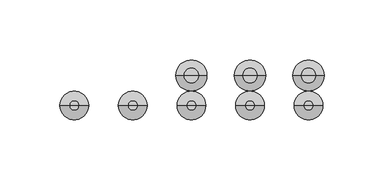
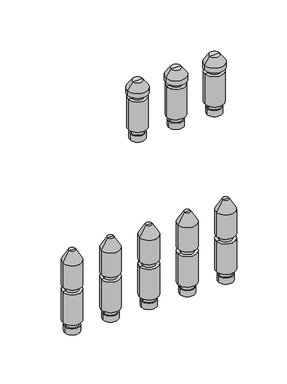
"""IFC4 building model written with IfcOpenShell, lengths in millimetres: valve geometry, PL AT_Manifold_FT-EV : 08 circuits."""

from ifc_helpers import new_model, si_unit, frame, origin, place, context, project, spatial, polyline, circle_curve, source, transform, mapped, element, save
from ifc_brep_helpers import plane_surface, cylinder_surface, revolved_surface, advanced_brep


def valve_fde5d0af(model_context):
    return source(origin(), model_context, "Body", "AdvancedBrep", [
        advanced_brep(
        [(325.6428571, 0.0, -35.11267), (344.6428571, 0.0, -35.11267), (335.1428571, 0.0, -35.11267), (325.6428571, 0.0, -27.0369646), (344.6428571, 0.0, -27.0369646), (327.1428571, 0.0, -27.0369646), (343.1428571, 0.0, -27.0369646), (327.1428571, 0.0, -20.330253), (343.1428571, 0.0, -20.330253), (323.1428571, 0.0, -20.330253), (347.1428571, 0.0, -20.330253), (323.1428571, 0.0, 20.330253), (347.1428571, 0.0, 20.330253), (327.1428571, 0.0, 20.330253), (343.1428571, 0.0, 20.330253), (327.1428571, 0.0, 27.0474786), (343.1428571, 0.0, 27.0474786), (323.1428571, 0.0, 27.0474786), (347.1428571, 0.0, 27.0474786), (323.1428571, 0.0, 59.4084325), (347.1428571, 0.0, 59.4084325), (331.1428571, 0.0, 73.264839), (339.1428571, 0.0, 73.264839), (335.1428571, 0.0, 73.264839)],
        [
            (0, 1, circle_curve(frame((335.1428571, 0.0, -35.11267), z_axis=(0.0, 0.0, -1.0), x_axis=(1.0, 0.0, 0.0)), 9.5)),
            (1, 2),
            (2, 0),
            (1, 0, circle_curve(frame((335.1428571, 0.0, -35.11267), z_axis=(0.0, 0.0, -1.0), x_axis=(1.0, 0.0, 0.0)), 9.5)),
            (3, 4, circle_curve(frame((335.1428571, 0.0, -27.0369646), z_axis=(0.0, 0.0, -1.0), x_axis=(1.0, 0.0, 0.0)), 9.5)),
            (4, 1),
            (0, 3),
            (4, 3, circle_curve(frame((335.1428571, 0.0, -27.0369646), z_axis=(0.0, 0.0, -1.0), x_axis=(1.0, 0.0, 0.0)), 9.5)),
            (5, 6, circle_curve(frame((335.1428571, 0.0, -27.0369646), z_axis=(0.0, 0.0, -1.0), x_axis=(1.0, 0.0, 0.0)), 8.0)),
            (6, 4),
            (3, 5),
            (6, 5, circle_curve(frame((335.1428571, 0.0, -27.0369646), z_axis=(0.0, 0.0, -1.0), x_axis=(1.0, 0.0, 0.0)), 8.0)),
            (7, 8, circle_curve(frame((335.1428571, 0.0, -20.330253), z_axis=(0.0, 0.0, -1.0), x_axis=(1.0, 0.0, 0.0)), 8.0)),
            (8, 6),
            (5, 7),
            (8, 7, circle_curve(frame((335.1428571, 0.0, -20.330253), z_axis=(0.0, 0.0, -1.0), x_axis=(1.0, 0.0, 0.0)), 8.0)),
            (9, 10, circle_curve(frame((335.1428571, 0.0, -20.330253), z_axis=(0.0, 0.0, -1.0), x_axis=(1.0, 0.0, 0.0)), 12.0)),
            (10, 8),
            (7, 9),
            (10, 9, circle_curve(frame((335.1428571, 0.0, -20.330253), z_axis=(0.0, 0.0, -1.0), x_axis=(1.0, 0.0, 0.0)), 12.0)),
            (11, 12, circle_curve(frame((335.1428571, 0.0, 20.330253), z_axis=(0.0, 0.0, -1.0), x_axis=(1.0, 0.0, 0.0)), 12.0)),
            (12, 10),
            (9, 11),
            (12, 11, circle_curve(frame((335.1428571, 0.0, 20.330253), z_axis=(0.0, 0.0, -1.0), x_axis=(1.0, 0.0, 0.0)), 12.0)),
            (13, 14, circle_curve(frame((335.1428571, 0.0, 20.330253), z_axis=(0.0, 0.0, -1.0), x_axis=(1.0, 0.0, 0.0)), 8.0)),
            (14, 12),
            (11, 13),
            (14, 13, circle_curve(frame((335.1428571, 0.0, 20.330253), z_axis=(0.0, 0.0, -1.0), x_axis=(1.0, 0.0, 0.0)), 8.0)),
            (15, 16, circle_curve(frame((335.1428571, 0.0, 27.0474786), z_axis=(0.0, 0.0, -1.0), x_axis=(1.0, 0.0, 0.0)), 8.0)),
            (16, 14),
            (13, 15),
            (16, 15, circle_curve(frame((335.1428571, 0.0, 27.0474786), z_axis=(0.0, 0.0, -1.0), x_axis=(1.0, 0.0, 0.0)), 8.0)),
            (17, 18, circle_curve(frame((335.1428571, 0.0, 27.0474786), z_axis=(0.0, 0.0, -1.0), x_axis=(1.0, 0.0, 0.0)), 12.0)),
            (18, 16),
            (15, 17),
            (18, 17, circle_curve(frame((335.1428571, 0.0, 27.0474786), z_axis=(0.0, 0.0, -1.0), x_axis=(1.0, 0.0, 0.0)), 12.0)),
            (19, 20, circle_curve(frame((335.1428571, 0.0, 59.4084325), z_axis=(0.0, 0.0, -1.0), x_axis=(1.0, 0.0, 0.0)), 12.0)),
            (20, 18),
            (17, 19),
            (20, 19, circle_curve(frame((335.1428571, 0.0, 59.4084325), z_axis=(0.0, 0.0, -1.0), x_axis=(1.0, 0.0, 0.0)), 12.0)),
            (21, 22, circle_curve(frame((335.1428571, 0.0, 73.264839), z_axis=(0.0, 0.0, -1.0), x_axis=(1.0, 0.0, 0.0)), 4.0)),
            (22, 20),
            (19, 21),
            (22, 21, circle_curve(frame((335.1428571, 0.0, 73.264839), z_axis=(0.0, 0.0, -1.0), x_axis=(1.0, 0.0, 0.0)), 4.0)),
            (23, 22),
            (21, 23),
        ],
        [
            plane_surface(frame((335.1428571, 0.0, -35.11267), z_axis=(0.0, 0.0, -1.0), x_axis=(1.0, 0.0, 0.0))),
            cylinder_surface(frame((335.1428571, 0.0, 58.264839), z_axis=(0.0, 0.0, 1.0), x_axis=(1.0, 0.0, 0.0)), 9.5),
            plane_surface(frame((335.1428571, 0.0, -27.0369646), z_axis=(0.0, 0.0, 1.0), x_axis=(1.0, 0.0, 0.0))),
            cylinder_surface(frame((335.1428571, 0.0, 58.264839), z_axis=(0.0, 0.0, 1.0), x_axis=(1.0, 0.0, 0.0)), 8.0),
            plane_surface(frame((335.1428571, 0.0, -20.330253), z_axis=(0.0, 0.0, -1.0), x_axis=(1.0, 0.0, 0.0))),
            cylinder_surface(frame((335.1428571, 0.0, 58.264839), z_axis=(0.0, 0.0, 1.0), x_axis=(1.0, 0.0, 0.0)), 12.0),
            plane_surface(frame((335.1428571, 0.0, 20.330253), z_axis=(0.0, 0.0, 1.0), x_axis=(1.0, 0.0, 0.0))),
            plane_surface(frame((335.1428571, 0.0, 27.0474786), z_axis=(0.0, 0.0, -1.0), x_axis=(1.0, 0.0, 0.0))),
            revolved_surface(polyline([(347.1428571, 0.0, 59.4084325), (339.1428571, 0.0, 73.264839)]), (335.1428571, 0.0, 58.264839), (0.0, 0.0, 1.0)),
            plane_surface(frame((335.1428571, 0.0, 73.264839), z_axis=(0.0, 0.0, 1.0), x_axis=(1.0, 0.0, 0.0))),
        ],
        [
            (0, [[1, 2, 3]]),
            (0, [[4, -3, -2]]),
            (1, [[5, 6, -1, 7]]),
            (1, [[8, -7, -4, -6]]),
            (2, [[9, 10, -5, 11]]),
            (2, [[12, -11, -8, -10]]),
            (3, [[13, 14, -9, 15]]),
            (3, [[16, -15, -12, -14]]),
            (4, [[17, 18, -13, 19]]),
            (4, [[20, -19, -16, -18]]),
            (5, [[21, 22, -17, 23]]),
            (5, [[24, -23, -20, -22]]),
            (6, [[25, 26, -21, 27]]),
            (6, [[28, -27, -24, -26]]),
            (3, [[29, 30, -25, 31]]),
            (3, [[32, -31, -28, -30]]),
            (7, [[33, 34, -29, 35]]),
            (7, [[36, -35, -32, -34]]),
            (5, [[37, 38, -33, 39]]),
            (5, [[40, -39, -36, -38]]),
            (8, [[41, 42, -37, 43]]),
            (8, [[44, -43, -40, -42]]),
            (9, [[45, -41, 46]]),
            (9, [[-46, -44, -45]]),
        ],
    ),
        advanced_brep(
        [(325.6428571, 25.0, 174.88733), (344.6428571, 25.0, 174.88733), (335.1428571, 25.0, 174.88733), (325.6428571, 25.0, 182.9630354), (344.6428571, 25.0, 182.9630354), (327.1428571, 25.0, 182.9630354), (343.1428571, 25.0, 182.9630354), (327.1428571, 25.0, 189.669747), (343.1428571, 25.0, 189.669747), (323.1428571, 25.0, 189.669747), (347.1428571, 25.0, 189.669747), (323.1428571, 25.0, 230.330253), (347.1428571, 25.0, 230.330253), (327.1428571, 25.0, 230.330253), (343.1428571, 25.0, 230.330253), (327.1428571, 25.0, 236.0474786), (343.1428571, 25.0, 236.0474786), (322.1428571, 25.0, 236.0474786), (348.1428571, 25.0, 236.0474786), (322.1428571, 25.0, 242.337955), (348.1428571, 25.0, 242.337955), (328.798035, 25.0, 251.842534), (341.4876793, 25.0, 251.842534), (335.1428571, 25.0, 251.842534)],
        [
            (0, 1, circle_curve(frame((335.1428571, 25.0, 174.88733), z_axis=(0.0, 0.0, -1.0), x_axis=(1.0, 0.0, 0.0)), 9.5)),
            (1, 2),
            (2, 0),
            (1, 0, circle_curve(frame((335.1428571, 25.0, 174.88733), z_axis=(0.0, 0.0, -1.0), x_axis=(1.0, 0.0, 0.0)), 9.5)),
            (3, 4, circle_curve(frame((335.1428571, 25.0, 182.9630354), z_axis=(0.0, 0.0, -1.0), x_axis=(1.0, 0.0, 0.0)), 9.5)),
            (4, 1),
            (0, 3),
            (4, 3, circle_curve(frame((335.1428571, 25.0, 182.9630354), z_axis=(0.0, 0.0, -1.0), x_axis=(1.0, 0.0, 0.0)), 9.5)),
            (5, 6, circle_curve(frame((335.1428571, 25.0, 182.9630354), z_axis=(0.0, 0.0, -1.0), x_axis=(1.0, 0.0, 0.0)), 8.0)),
            (6, 4),
            (3, 5),
            (6, 5, circle_curve(frame((335.1428571, 25.0, 182.9630354), z_axis=(0.0, 0.0, -1.0), x_axis=(1.0, 0.0, 0.0)), 8.0)),
            (7, 8, circle_curve(frame((335.1428571, 25.0, 189.669747), z_axis=(0.0, 0.0, -1.0), x_axis=(1.0, 0.0, 0.0)), 8.0)),
            (8, 6),
            (5, 7),
            (8, 7, circle_curve(frame((335.1428571, 25.0, 189.669747), z_axis=(0.0, 0.0, -1.0), x_axis=(1.0, 0.0, 0.0)), 8.0)),
            (9, 10, circle_curve(frame((335.1428571, 25.0, 189.669747), z_axis=(0.0, 0.0, -1.0), x_axis=(1.0, 0.0, 0.0)), 12.0)),
            (10, 8),
            (7, 9),
            (10, 9, circle_curve(frame((335.1428571, 25.0, 189.669747), z_axis=(0.0, 0.0, -1.0), x_axis=(1.0, 0.0, 0.0)), 12.0)),
            (11, 12, circle_curve(frame((335.1428571, 25.0, 230.330253), z_axis=(0.0, 0.0, -1.0), x_axis=(1.0, 0.0, 0.0)), 12.0)),
            (12, 10),
            (9, 11),
            (12, 11, circle_curve(frame((335.1428571, 25.0, 230.330253), z_axis=(0.0, 0.0, -1.0), x_axis=(1.0, 0.0, 0.0)), 12.0)),
            (13, 14, circle_curve(frame((335.1428571, 25.0, 230.330253), z_axis=(0.0, 0.0, -1.0), x_axis=(1.0, 0.0, 0.0)), 8.0)),
            (14, 12),
            (11, 13),
            (14, 13, circle_curve(frame((335.1428571, 25.0, 230.330253), z_axis=(0.0, 0.0, -1.0), x_axis=(1.0, 0.0, 0.0)), 8.0)),
            (15, 16, circle_curve(frame((335.1428571, 25.0, 236.0474786), z_axis=(0.0, 0.0, -1.0), x_axis=(1.0, 0.0, 0.0)), 8.0)),
            (16, 14),
            (13, 15),
            (16, 15, circle_curve(frame((335.1428571, 25.0, 236.0474786), z_axis=(0.0, 0.0, -1.0), x_axis=(1.0, 0.0, 0.0)), 8.0)),
            (17, 18, circle_curve(frame((335.1428571, 25.0, 236.0474786), z_axis=(0.0, 0.0, -1.0), x_axis=(1.0, 0.0, 0.0)), 13.0)),
            (18, 16),
            (15, 17),
            (18, 17, circle_curve(frame((335.1428571, 25.0, 236.0474786), z_axis=(0.0, 0.0, -1.0), x_axis=(1.0, 0.0, 0.0)), 13.0)),
            (19, 20, circle_curve(frame((335.1428571, 25.0, 242.337955), z_axis=(0.0, 0.0, -1.0), x_axis=(1.0, 0.0, 0.0)), 13.0)),
            (20, 18),
            (17, 19),
            (20, 19, circle_curve(frame((335.1428571, 25.0, 242.337955), z_axis=(0.0, 0.0, -1.0), x_axis=(1.0, 0.0, 0.0)), 13.0)),
            (21, 22, circle_curve(frame((335.1428571, 25.0, 251.842534), z_axis=(0.0, 0.0, -1.0), x_axis=(1.0, 0.0, 0.0)), 6.3448221)),
            (22, 20),
            (19, 21),
            (22, 21, circle_curve(frame((335.1428571, 25.0, 251.842534), z_axis=(0.0, 0.0, -1.0), x_axis=(1.0, 0.0, 0.0)), 6.3448221)),
            (23, 22),
            (21, 23),
        ],
        [
            plane_surface(frame((335.1428571, 25.0, 174.88733), z_axis=(0.0, 0.0, -1.0), x_axis=(1.0, 0.0, 0.0))),
            cylinder_surface(frame((335.1428571, 25.0, 247.7026565), z_axis=(0.0, 0.0, 1.0), x_axis=(1.0, 0.0, 0.0)), 9.5),
            plane_surface(frame((335.1428571, 25.0, 182.9630354), z_axis=(0.0, 0.0, 1.0), x_axis=(1.0, 0.0, 0.0))),
            cylinder_surface(frame((335.1428571, 25.0, 247.7026565), z_axis=(0.0, 0.0, 1.0), x_axis=(1.0, 0.0, 0.0)), 8.0),
            plane_surface(frame((335.1428571, 25.0, 189.669747), z_axis=(0.0, 0.0, -1.0), x_axis=(1.0, 0.0, 0.0))),
            cylinder_surface(frame((335.1428571, 25.0, 247.7026565), z_axis=(0.0, 0.0, 1.0), x_axis=(1.0, 0.0, 0.0)), 12.0),
            plane_surface(frame((335.1428571, 25.0, 230.330253), z_axis=(0.0, 0.0, 1.0), x_axis=(1.0, 0.0, 0.0))),
            plane_surface(frame((335.1428571, 25.0, 236.0474786), z_axis=(0.0, 0.0, -1.0), x_axis=(1.0, 0.0, 0.0))),
            cylinder_surface(frame((335.1428571, 25.0, 247.7026565), z_axis=(0.0, 0.0, 1.0), x_axis=(1.0, 0.0, 0.0)), 13.0),
            revolved_surface(polyline([(348.1428571, 25.0, 242.337955), (341.4876793, 25.0, 251.842534)]), (335.1428571, 25.0, 247.7026565), (0.0, 0.0, 1.0)),
            plane_surface(frame((335.1428571, 25.0, 251.842534), z_axis=(0.0, 0.0, 1.0), x_axis=(1.0, 0.0, 0.0))),
        ],
        [
            (0, [[1, 2, 3]]),
            (0, [[4, -3, -2]]),
            (1, [[5, 6, -1, 7]]),
            (1, [[8, -7, -4, -6]]),
            (2, [[9, 10, -5, 11]]),
            (2, [[12, -11, -8, -10]]),
            (3, [[13, 14, -9, 15]]),
            (3, [[16, -15, -12, -14]]),
            (4, [[17, 18, -13, 19]]),
            (4, [[20, -19, -16, -18]]),
            (5, [[21, 22, -17, 23]]),
            (5, [[24, -23, -20, -22]]),
            (6, [[25, 26, -21, 27]]),
            (6, [[28, -27, -24, -26]]),
            (3, [[29, 30, -25, 31]]),
            (3, [[32, -31, -28, -30]]),
            (7, [[33, 34, -29, 35]]),
            (7, [[36, -35, -32, -34]]),
            (8, [[37, 38, -33, 39]]),
            (8, [[40, -39, -36, -38]]),
            (9, [[41, 42, -37, 43]]),
            (9, [[44, -43, -40, -42]]),
            (10, [[45, -41, 46]]),
            (10, [[-46, -44, -45]]),
        ],
    ),
        advanced_brep(
        [(276.7857143, 0.0, -35.11267), (295.7857143, 0.0, -35.11267), (286.2857143, 0.0, -35.11267), (276.7857143, 0.0, -27.0369646), (295.7857143, 0.0, -27.0369646), (278.2857143, 0.0, -27.0369646), (294.2857143, 0.0, -27.0369646), (278.2857143, 0.0, -20.330253), (294.2857143, 0.0, -20.330253), (274.2857143, 0.0, -20.330253), (298.2857143, 0.0, -20.330253), (274.2857143, 0.0, 20.330253), (298.2857143, 0.0, 20.330253), (278.2857143, 0.0, 20.330253), (294.2857143, 0.0, 20.330253), (278.2857143, 0.0, 27.0474786), (294.2857143, 0.0, 27.0474786), (274.2857143, 0.0, 27.0474786), (298.2857143, 0.0, 27.0474786), (274.2857143, 0.0, 59.4084325), (298.2857143, 0.0, 59.4084325), (282.2857143, 0.0, 73.264839), (290.2857143, 0.0, 73.264839), (286.2857143, 0.0, 73.264839)],
        [
            (0, 1, circle_curve(frame((286.2857143, 0.0, -35.11267), z_axis=(0.0, 0.0, -1.0), x_axis=(1.0, 0.0, 0.0)), 9.5)),
            (1, 2),
            (2, 0),
            (1, 0, circle_curve(frame((286.2857143, 0.0, -35.11267), z_axis=(0.0, 0.0, -1.0), x_axis=(1.0, 0.0, 0.0)), 9.5)),
            (3, 4, circle_curve(frame((286.2857143, 0.0, -27.0369646), z_axis=(0.0, 0.0, -1.0), x_axis=(1.0, 0.0, 0.0)), 9.5)),
            (4, 1),
            (0, 3),
            (4, 3, circle_curve(frame((286.2857143, 0.0, -27.0369646), z_axis=(0.0, 0.0, -1.0), x_axis=(1.0, 0.0, 0.0)), 9.5)),
            (5, 6, circle_curve(frame((286.2857143, 0.0, -27.0369646), z_axis=(0.0, 0.0, -1.0), x_axis=(1.0, 0.0, 0.0)), 8.0)),
            (6, 4),
            (3, 5),
            (6, 5, circle_curve(frame((286.2857143, 0.0, -27.0369646), z_axis=(0.0, 0.0, -1.0), x_axis=(1.0, 0.0, 0.0)), 8.0)),
            (7, 8, circle_curve(frame((286.2857143, 0.0, -20.330253), z_axis=(0.0, 0.0, -1.0), x_axis=(1.0, 0.0, 0.0)), 8.0)),
            (8, 6),
            (5, 7),
            (8, 7, circle_curve(frame((286.2857143, 0.0, -20.330253), z_axis=(0.0, 0.0, -1.0), x_axis=(1.0, 0.0, 0.0)), 8.0)),
            (9, 10, circle_curve(frame((286.2857143, 0.0, -20.330253), z_axis=(0.0, 0.0, -1.0), x_axis=(1.0, 0.0, 0.0)), 12.0)),
            (10, 8),
            (7, 9),
            (10, 9, circle_curve(frame((286.2857143, 0.0, -20.330253), z_axis=(0.0, 0.0, -1.0), x_axis=(1.0, 0.0, 0.0)), 12.0)),
            (11, 12, circle_curve(frame((286.2857143, 0.0, 20.330253), z_axis=(0.0, 0.0, -1.0), x_axis=(1.0, 0.0, 0.0)), 12.0)),
            (12, 10),
            (9, 11),
            (12, 11, circle_curve(frame((286.2857143, 0.0, 20.330253), z_axis=(0.0, 0.0, -1.0), x_axis=(1.0, 0.0, 0.0)), 12.0)),
            (13, 14, circle_curve(frame((286.2857143, 0.0, 20.330253), z_axis=(0.0, 0.0, -1.0), x_axis=(1.0, 0.0, 0.0)), 8.0)),
            (14, 12),
            (11, 13),
            (14, 13, circle_curve(frame((286.2857143, 0.0, 20.330253), z_axis=(0.0, 0.0, -1.0), x_axis=(1.0, 0.0, 0.0)), 8.0)),
            (15, 16, circle_curve(frame((286.2857143, 0.0, 27.0474786), z_axis=(0.0, 0.0, -1.0), x_axis=(1.0, 0.0, 0.0)), 8.0)),
            (16, 14),
            (13, 15),
            (16, 15, circle_curve(frame((286.2857143, 0.0, 27.0474786), z_axis=(0.0, 0.0, -1.0), x_axis=(1.0, 0.0, 0.0)), 8.0)),
            (17, 18, circle_curve(frame((286.2857143, 0.0, 27.0474786), z_axis=(0.0, 0.0, -1.0), x_axis=(1.0, 0.0, 0.0)), 12.0)),
            (18, 16),
            (15, 17),
            (18, 17, circle_curve(frame((286.2857143, 0.0, 27.0474786), z_axis=(0.0, 0.0, -1.0), x_axis=(1.0, 0.0, 0.0)), 12.0)),
            (19, 20, circle_curve(frame((286.2857143, 0.0, 59.4084325), z_axis=(0.0, 0.0, -1.0), x_axis=(1.0, 0.0, 0.0)), 12.0)),
            (20, 18),
            (17, 19),
            (20, 19, circle_curve(frame((286.2857143, 0.0, 59.4084325), z_axis=(0.0, 0.0, -1.0), x_axis=(1.0, 0.0, 0.0)), 12.0)),
            (21, 22, circle_curve(frame((286.2857143, 0.0, 73.264839), z_axis=(0.0, 0.0, -1.0), x_axis=(1.0, 0.0, 0.0)), 4.0)),
            (22, 20),
            (19, 21),
            (22, 21, circle_curve(frame((286.2857143, 0.0, 73.264839), z_axis=(0.0, 0.0, -1.0), x_axis=(1.0, 0.0, 0.0)), 4.0)),
            (23, 22),
            (21, 23),
        ],
        [
            plane_surface(frame((286.2857143, 0.0, -35.11267), z_axis=(0.0, 0.0, -1.0), x_axis=(1.0, 0.0, 0.0))),
            cylinder_surface(frame((286.2857143, 0.0, 58.264839), z_axis=(0.0, 0.0, 1.0), x_axis=(1.0, 0.0, 0.0)), 9.5),
            plane_surface(frame((286.2857143, 0.0, -27.0369646), z_axis=(0.0, 0.0, 1.0), x_axis=(1.0, 0.0, 0.0))),
            cylinder_surface(frame((286.2857143, 0.0, 58.264839), z_axis=(0.0, 0.0, 1.0), x_axis=(1.0, 0.0, 0.0)), 8.0),
            plane_surface(frame((286.2857143, 0.0, -20.330253), z_axis=(0.0, 0.0, -1.0), x_axis=(1.0, 0.0, 0.0))),
            cylinder_surface(frame((286.2857143, 0.0, 58.264839), z_axis=(0.0, 0.0, 1.0), x_axis=(1.0, 0.0, 0.0)), 12.0),
            plane_surface(frame((286.2857143, 0.0, 20.330253), z_axis=(0.0, 0.0, 1.0), x_axis=(1.0, 0.0, 0.0))),
            plane_surface(frame((286.2857143, 0.0, 27.0474786), z_axis=(0.0, 0.0, -1.0), x_axis=(1.0, 0.0, 0.0))),
            revolved_surface(polyline([(298.2857143, 0.0, 59.4084325), (290.2857143, 0.0, 73.264839)]), (286.2857143, 0.0, 58.264839), (0.0, 0.0, 1.0)),
            plane_surface(frame((286.2857143, 0.0, 73.264839), z_axis=(0.0, 0.0, 1.0), x_axis=(1.0, 0.0, 0.0))),
        ],
        [
            (0, [[1, 2, 3]]),
            (0, [[4, -3, -2]]),
            (1, [[5, 6, -1, 7]]),
            (1, [[8, -7, -4, -6]]),
            (2, [[9, 10, -5, 11]]),
            (2, [[12, -11, -8, -10]]),
            (3, [[13, 14, -9, 15]]),
            (3, [[16, -15, -12, -14]]),
            (4, [[17, 18, -13, 19]]),
            (4, [[20, -19, -16, -18]]),
            (5, [[21, 22, -17, 23]]),
            (5, [[24, -23, -20, -22]]),
            (6, [[25, 26, -21, 27]]),
            (6, [[28, -27, -24, -26]]),
            (3, [[29, 30, -25, 31]]),
            (3, [[32, -31, -28, -30]]),
            (7, [[33, 34, -29, 35]]),
            (7, [[36, -35, -32, -34]]),
            (5, [[37, 38, -33, 39]]),
            (5, [[40, -39, -36, -38]]),
            (8, [[41, 42, -37, 43]]),
            (8, [[44, -43, -40, -42]]),
            (9, [[45, -41, 46]]),
            (9, [[-46, -44, -45]]),
        ],
    ),
        advanced_brep(
        [(227.9285714, 0.0, -35.11267), (246.9285714, 0.0, -35.11267), (237.4285714, 0.0, -35.11267), (227.9285714, 0.0, -27.0369646), (246.9285714, 0.0, -27.0369646), (229.4285714, 0.0, -27.0369646), (245.4285714, 0.0, -27.0369646), (229.4285714, 0.0, -20.330253), (245.4285714, 0.0, -20.330253), (225.4285714, 0.0, -20.330253), (249.4285714, 0.0, -20.330253), (225.4285714, 0.0, 20.330253), (249.4285714, 0.0, 20.330253), (229.4285714, 0.0, 20.330253), (245.4285714, 0.0, 20.330253), (229.4285714, 0.0, 27.0474786), (245.4285714, 0.0, 27.0474786), (225.4285714, 0.0, 27.0474786), (249.4285714, 0.0, 27.0474786), (225.4285714, 0.0, 59.4084325), (249.4285714, 0.0, 59.4084325), (233.4285714, 0.0, 73.264839), (241.4285714, 0.0, 73.264839), (237.4285714, 0.0, 73.264839)],
        [
            (0, 1, circle_curve(frame((237.4285714, 0.0, -35.11267), z_axis=(0.0, 0.0, -1.0), x_axis=(1.0, 0.0, 0.0)), 9.5)),
            (1, 2),
            (2, 0),
            (1, 0, circle_curve(frame((237.4285714, 0.0, -35.11267), z_axis=(0.0, 0.0, -1.0), x_axis=(1.0, 0.0, 0.0)), 9.5)),
            (3, 4, circle_curve(frame((237.4285714, 0.0, -27.0369646), z_axis=(0.0, 0.0, -1.0), x_axis=(1.0, 0.0, 0.0)), 9.5)),
            (4, 1),
            (0, 3),
            (4, 3, circle_curve(frame((237.4285714, 0.0, -27.0369646), z_axis=(0.0, 0.0, -1.0), x_axis=(1.0, 0.0, 0.0)), 9.5)),
            (5, 6, circle_curve(frame((237.4285714, 0.0, -27.0369646), z_axis=(0.0, 0.0, -1.0), x_axis=(1.0, 0.0, 0.0)), 8.0)),
            (6, 4),
            (3, 5),
            (6, 5, circle_curve(frame((237.4285714, 0.0, -27.0369646), z_axis=(0.0, 0.0, -1.0), x_axis=(1.0, 0.0, 0.0)), 8.0)),
            (7, 8, circle_curve(frame((237.4285714, 0.0, -20.330253), z_axis=(0.0, 0.0, -1.0), x_axis=(1.0, 0.0, 0.0)), 8.0)),
            (8, 6),
            (5, 7),
            (8, 7, circle_curve(frame((237.4285714, 0.0, -20.330253), z_axis=(0.0, 0.0, -1.0), x_axis=(1.0, 0.0, 0.0)), 8.0)),
            (9, 10, circle_curve(frame((237.4285714, 0.0, -20.330253), z_axis=(0.0, 0.0, -1.0), x_axis=(1.0, 0.0, 0.0)), 12.0)),
            (10, 8),
            (7, 9),
            (10, 9, circle_curve(frame((237.4285714, 0.0, -20.330253), z_axis=(0.0, 0.0, -1.0), x_axis=(1.0, 0.0, 0.0)), 12.0)),
            (11, 12, circle_curve(frame((237.4285714, 0.0, 20.330253), z_axis=(0.0, 0.0, -1.0), x_axis=(1.0, 0.0, 0.0)), 12.0)),
            (12, 10),
            (9, 11),
            (12, 11, circle_curve(frame((237.4285714, 0.0, 20.330253), z_axis=(0.0, 0.0, -1.0), x_axis=(1.0, 0.0, 0.0)), 12.0)),
            (13, 14, circle_curve(frame((237.4285714, 0.0, 20.330253), z_axis=(0.0, 0.0, -1.0), x_axis=(1.0, 0.0, 0.0)), 8.0)),
            (14, 12),
            (11, 13),
            (14, 13, circle_curve(frame((237.4285714, 0.0, 20.330253), z_axis=(0.0, 0.0, -1.0), x_axis=(1.0, 0.0, 0.0)), 8.0)),
            (15, 16, circle_curve(frame((237.4285714, 0.0, 27.0474786), z_axis=(0.0, 0.0, -1.0), x_axis=(1.0, 0.0, 0.0)), 8.0)),
            (16, 14),
            (13, 15),
            (16, 15, circle_curve(frame((237.4285714, 0.0, 27.0474786), z_axis=(0.0, 0.0, -1.0), x_axis=(1.0, 0.0, 0.0)), 8.0)),
            (17, 18, circle_curve(frame((237.4285714, 0.0, 27.0474786), z_axis=(0.0, 0.0, -1.0), x_axis=(1.0, 0.0, 0.0)), 12.0)),
            (18, 16),
            (15, 17),
            (18, 17, circle_curve(frame((237.4285714, 0.0, 27.0474786), z_axis=(0.0, 0.0, -1.0), x_axis=(1.0, 0.0, 0.0)), 12.0)),
            (19, 20, circle_curve(frame((237.4285714, 0.0, 59.4084325), z_axis=(0.0, 0.0, -1.0), x_axis=(1.0, 0.0, 0.0)), 12.0)),
            (20, 18),
            (17, 19),
            (20, 19, circle_curve(frame((237.4285714, 0.0, 59.4084325), z_axis=(0.0, 0.0, -1.0), x_axis=(1.0, 0.0, 0.0)), 12.0)),
            (21, 22, circle_curve(frame((237.4285714, 0.0, 73.264839), z_axis=(0.0, 0.0, -1.0), x_axis=(1.0, 0.0, 0.0)), 4.0)),
            (22, 20),
            (19, 21),
            (22, 21, circle_curve(frame((237.4285714, 0.0, 73.264839), z_axis=(0.0, 0.0, -1.0), x_axis=(1.0, 0.0, 0.0)), 4.0)),
            (23, 22),
            (21, 23),
        ],
        [
            plane_surface(frame((237.4285714, 0.0, -35.11267), z_axis=(0.0, 0.0, -1.0), x_axis=(1.0, 0.0, 0.0))),
            cylinder_surface(frame((237.4285714, 0.0, 58.264839), z_axis=(0.0, 0.0, 1.0), x_axis=(1.0, 0.0, 0.0)), 9.5),
            plane_surface(frame((237.4285714, 0.0, -27.0369646), z_axis=(0.0, 0.0, 1.0), x_axis=(1.0, 0.0, 0.0))),
            cylinder_surface(frame((237.4285714, 0.0, 58.264839), z_axis=(0.0, 0.0, 1.0), x_axis=(1.0, 0.0, 0.0)), 8.0),
            plane_surface(frame((237.4285714, 0.0, -20.330253), z_axis=(0.0, 0.0, -1.0), x_axis=(1.0, 0.0, 0.0))),
            cylinder_surface(frame((237.4285714, 0.0, 58.264839), z_axis=(0.0, 0.0, 1.0), x_axis=(1.0, 0.0, 0.0)), 12.0),
            plane_surface(frame((237.4285714, 0.0, 20.330253), z_axis=(0.0, 0.0, 1.0), x_axis=(1.0, 0.0, 0.0))),
            plane_surface(frame((237.4285714, 0.0, 27.0474786), z_axis=(0.0, 0.0, -1.0), x_axis=(1.0, 0.0, 0.0))),
            revolved_surface(polyline([(249.4285714, 0.0, 59.4084325), (241.4285714, 0.0, 73.264839)]), (237.4285714, 0.0, 58.264839), (0.0, 0.0, 1.0)),
            plane_surface(frame((237.4285714, 0.0, 73.264839), z_axis=(0.0, 0.0, 1.0), x_axis=(1.0, 0.0, 0.0))),
        ],
        [
            (0, [[1, 2, 3]]),
            (0, [[4, -3, -2]]),
            (1, [[5, 6, -1, 7]]),
            (1, [[8, -7, -4, -6]]),
            (2, [[9, 10, -5, 11]]),
            (2, [[12, -11, -8, -10]]),
            (3, [[13, 14, -9, 15]]),
            (3, [[16, -15, -12, -14]]),
            (4, [[17, 18, -13, 19]]),
            (4, [[20, -19, -16, -18]]),
            (5, [[21, 22, -17, 23]]),
            (5, [[24, -23, -20, -22]]),
            (6, [[25, 26, -21, 27]]),
            (6, [[28, -27, -24, -26]]),
            (3, [[29, 30, -25, 31]]),
            (3, [[32, -31, -28, -30]]),
            (7, [[33, 34, -29, 35]]),
            (7, [[36, -35, -32, -34]]),
            (5, [[37, 38, -33, 39]]),
            (5, [[40, -39, -36, -38]]),
            (8, [[41, 42, -37, 43]]),
            (8, [[44, -43, -40, -42]]),
            (9, [[45, -41, 46]]),
            (9, [[-46, -44, -45]]),
        ],
    ),
        advanced_brep(
        [(179.0714286, 0.0, -35.11267), (198.0714286, 0.0, -35.11267), (188.5714286, 0.0, -35.11267), (179.0714286, 0.0, -27.0369646), (198.0714286, 0.0, -27.0369646), (180.5714286, 0.0, -27.0369646), (196.5714286, 0.0, -27.0369646), (180.5714286, 0.0, -20.330253), (196.5714286, 0.0, -20.330253), (176.5714286, 0.0, -20.330253), (200.5714286, 0.0, -20.330253), (176.5714286, 0.0, 20.330253), (200.5714286, 0.0, 20.330253), (180.5714286, 0.0, 20.330253), (196.5714286, 0.0, 20.330253), (180.5714286, 0.0, 27.0474786), (196.5714286, 0.0, 27.0474786), (176.5714286, 0.0, 27.0474786), (200.5714286, 0.0, 27.0474786), (176.5714286, 0.0, 59.4084325), (200.5714286, 0.0, 59.4084325), (184.5714286, 0.0, 73.264839), (192.5714286, 0.0, 73.264839), (188.5714286, 0.0, 73.264839)],
        [
            (0, 1, circle_curve(frame((188.5714286, 0.0, -35.11267), z_axis=(0.0, 0.0, -1.0), x_axis=(1.0, 0.0, 0.0)), 9.5)),
            (1, 2),
            (2, 0),
            (1, 0, circle_curve(frame((188.5714286, 0.0, -35.11267), z_axis=(0.0, 0.0, -1.0), x_axis=(1.0, 0.0, 0.0)), 9.5)),
            (3, 4, circle_curve(frame((188.5714286, 0.0, -27.0369646), z_axis=(0.0, 0.0, -1.0), x_axis=(1.0, 0.0, 0.0)), 9.5)),
            (4, 1),
            (0, 3),
            (4, 3, circle_curve(frame((188.5714286, 0.0, -27.0369646), z_axis=(0.0, 0.0, -1.0), x_axis=(1.0, 0.0, 0.0)), 9.5)),
            (5, 6, circle_curve(frame((188.5714286, 0.0, -27.0369646), z_axis=(0.0, 0.0, -1.0), x_axis=(1.0, 0.0, 0.0)), 8.0)),
            (6, 4),
            (3, 5),
            (6, 5, circle_curve(frame((188.5714286, 0.0, -27.0369646), z_axis=(0.0, 0.0, -1.0), x_axis=(1.0, 0.0, 0.0)), 8.0)),
            (7, 8, circle_curve(frame((188.5714286, 0.0, -20.330253), z_axis=(0.0, 0.0, -1.0), x_axis=(1.0, 0.0, 0.0)), 8.0)),
            (8, 6),
            (5, 7),
            (8, 7, circle_curve(frame((188.5714286, 0.0, -20.330253), z_axis=(0.0, 0.0, -1.0), x_axis=(1.0, 0.0, 0.0)), 8.0)),
            (9, 10, circle_curve(frame((188.5714286, 0.0, -20.330253), z_axis=(0.0, 0.0, -1.0), x_axis=(1.0, 0.0, 0.0)), 12.0)),
            (10, 8),
            (7, 9),
            (10, 9, circle_curve(frame((188.5714286, 0.0, -20.330253), z_axis=(0.0, 0.0, -1.0), x_axis=(1.0, 0.0, 0.0)), 12.0)),
            (11, 12, circle_curve(frame((188.5714286, 0.0, 20.330253), z_axis=(0.0, 0.0, -1.0), x_axis=(1.0, 0.0, 0.0)), 12.0)),
            (12, 10),
            (9, 11),
            (12, 11, circle_curve(frame((188.5714286, 0.0, 20.330253), z_axis=(0.0, 0.0, -1.0), x_axis=(1.0, 0.0, 0.0)), 12.0)),
            (13, 14, circle_curve(frame((188.5714286, 0.0, 20.330253), z_axis=(0.0, 0.0, -1.0), x_axis=(1.0, 0.0, 0.0)), 8.0)),
            (14, 12),
            (11, 13),
            (14, 13, circle_curve(frame((188.5714286, 0.0, 20.330253), z_axis=(0.0, 0.0, -1.0), x_axis=(1.0, 0.0, 0.0)), 8.0)),
            (15, 16, circle_curve(frame((188.5714286, 0.0, 27.0474786), z_axis=(0.0, 0.0, -1.0), x_axis=(1.0, 0.0, 0.0)), 8.0)),
            (16, 14),
            (13, 15),
            (16, 15, circle_curve(frame((188.5714286, 0.0, 27.0474786), z_axis=(0.0, 0.0, -1.0), x_axis=(1.0, 0.0, 0.0)), 8.0)),
            (17, 18, circle_curve(frame((188.5714286, 0.0, 27.0474786), z_axis=(0.0, 0.0, -1.0), x_axis=(1.0, 0.0, 0.0)), 12.0)),
            (18, 16),
            (15, 17),
            (18, 17, circle_curve(frame((188.5714286, 0.0, 27.0474786), z_axis=(0.0, 0.0, -1.0), x_axis=(1.0, 0.0, 0.0)), 12.0)),
            (19, 20, circle_curve(frame((188.5714286, 0.0, 59.4084325), z_axis=(0.0, 0.0, -1.0), x_axis=(1.0, 0.0, 0.0)), 12.0)),
            (20, 18),
            (17, 19),
            (20, 19, circle_curve(frame((188.5714286, 0.0, 59.4084325), z_axis=(0.0, 0.0, -1.0), x_axis=(1.0, 0.0, 0.0)), 12.0)),
            (21, 22, circle_curve(frame((188.5714286, 0.0, 73.264839), z_axis=(0.0, 0.0, -1.0), x_axis=(1.0, 0.0, 0.0)), 4.0)),
            (22, 20),
            (19, 21),
            (22, 21, circle_curve(frame((188.5714286, 0.0, 73.264839), z_axis=(0.0, 0.0, -1.0), x_axis=(1.0, 0.0, 0.0)), 4.0)),
            (23, 22),
            (21, 23),
        ],
        [
            plane_surface(frame((188.5714286, 0.0, -35.11267), z_axis=(0.0, 0.0, -1.0), x_axis=(1.0, 0.0, 0.0))),
            cylinder_surface(frame((188.5714286, 0.0, 58.264839), z_axis=(0.0, 0.0, 1.0), x_axis=(1.0, 0.0, 0.0)), 9.5),
            plane_surface(frame((188.5714286, 0.0, -27.0369646), z_axis=(0.0, 0.0, 1.0), x_axis=(1.0, 0.0, 0.0))),
            cylinder_surface(frame((188.5714286, 0.0, 58.264839), z_axis=(0.0, 0.0, 1.0), x_axis=(1.0, 0.0, 0.0)), 8.0),
            plane_surface(frame((188.5714286, 0.0, -20.330253), z_axis=(0.0, 0.0, -1.0), x_axis=(1.0, 0.0, 0.0))),
            cylinder_surface(frame((188.5714286, 0.0, 58.264839), z_axis=(0.0, 0.0, 1.0), x_axis=(1.0, 0.0, 0.0)), 12.0),
            plane_surface(frame((188.5714286, 0.0, 20.330253), z_axis=(0.0, 0.0, 1.0), x_axis=(1.0, 0.0, 0.0))),
            plane_surface(frame((188.5714286, 0.0, 27.0474786), z_axis=(0.0, 0.0, -1.0), x_axis=(1.0, 0.0, 0.0))),
            revolved_surface(polyline([(200.5714286, 0.0, 59.4084325), (192.5714286, 0.0, 73.264839)]), (188.5714286, 0.0, 58.264839), (0.0, 0.0, 1.0)),
            plane_surface(frame((188.5714286, 0.0, 73.264839), z_axis=(0.0, 0.0, 1.0), x_axis=(1.0, 0.0, 0.0))),
        ],
        [
            (0, [[1, 2, 3]]),
            (0, [[4, -3, -2]]),
            (1, [[5, 6, -1, 7]]),
            (1, [[8, -7, -4, -6]]),
            (2, [[9, 10, -5, 11]]),
            (2, [[12, -11, -8, -10]]),
            (3, [[13, 14, -9, 15]]),
            (3, [[16, -15, -12, -14]]),
            (4, [[17, 18, -13, 19]]),
            (4, [[20, -19, -16, -18]]),
            (5, [[21, 22, -17, 23]]),
            (5, [[24, -23, -20, -22]]),
            (6, [[25, 26, -21, 27]]),
            (6, [[28, -27, -24, -26]]),
            (3, [[29, 30, -25, 31]]),
            (3, [[32, -31, -28, -30]]),
            (7, [[33, 34, -29, 35]]),
            (7, [[36, -35, -32, -34]]),
            (5, [[37, 38, -33, 39]]),
            (5, [[40, -39, -36, -38]]),
            (8, [[41, 42, -37, 43]]),
            (8, [[44, -43, -40, -42]]),
            (9, [[45, -41, 46]]),
            (9, [[-46, -44, -45]]),
        ],
    ),
        advanced_brep(
        [(130.2142857, 0.0, -35.11267), (149.2142857, 0.0, -35.11267), (139.7142857, 0.0, -35.11267), (130.2142857, 0.0, -27.0369646), (149.2142857, 0.0, -27.0369646), (131.7142857, 0.0, -27.0369646), (147.7142857, 0.0, -27.0369646), (131.7142857, 0.0, -20.330253), (147.7142857, 0.0, -20.330253), (127.7142857, 0.0, -20.330253), (151.7142857, 0.0, -20.330253), (127.7142857, 0.0, 20.330253), (151.7142857, 0.0, 20.330253), (131.7142857, 0.0, 20.330253), (147.7142857, 0.0, 20.330253), (131.7142857, 0.0, 27.0474786), (147.7142857, 0.0, 27.0474786), (127.7142857, 0.0, 27.0474786), (151.7142857, 0.0, 27.0474786), (127.7142857, 0.0, 59.4084325), (151.7142857, 0.0, 59.4084325), (135.7142857, 0.0, 73.264839), (143.7142857, 0.0, 73.264839), (139.7142857, 0.0, 73.264839)],
        [
            (0, 1, circle_curve(frame((139.7142857, 0.0, -35.11267), z_axis=(0.0, 0.0, -1.0), x_axis=(1.0, 0.0, 0.0)), 9.5)),
            (1, 2),
            (2, 0),
            (1, 0, circle_curve(frame((139.7142857, 0.0, -35.11267), z_axis=(0.0, 0.0, -1.0), x_axis=(1.0, 0.0, 0.0)), 9.5)),
            (3, 4, circle_curve(frame((139.7142857, 0.0, -27.0369646), z_axis=(0.0, 0.0, -1.0), x_axis=(1.0, 0.0, 0.0)), 9.5)),
            (4, 1),
            (0, 3),
            (4, 3, circle_curve(frame((139.7142857, 0.0, -27.0369646), z_axis=(0.0, 0.0, -1.0), x_axis=(1.0, 0.0, 0.0)), 9.5)),
            (5, 6, circle_curve(frame((139.7142857, 0.0, -27.0369646), z_axis=(0.0, 0.0, -1.0), x_axis=(1.0, 0.0, 0.0)), 8.0)),
            (6, 4),
            (3, 5),
            (6, 5, circle_curve(frame((139.7142857, 0.0, -27.0369646), z_axis=(0.0, 0.0, -1.0), x_axis=(1.0, 0.0, 0.0)), 8.0)),
            (7, 8, circle_curve(frame((139.7142857, 0.0, -20.330253), z_axis=(0.0, 0.0, -1.0), x_axis=(1.0, 0.0, 0.0)), 8.0)),
            (8, 6),
            (5, 7),
            (8, 7, circle_curve(frame((139.7142857, 0.0, -20.330253), z_axis=(0.0, 0.0, -1.0), x_axis=(1.0, 0.0, 0.0)), 8.0)),
            (9, 10, circle_curve(frame((139.7142857, 0.0, -20.330253), z_axis=(0.0, 0.0, -1.0), x_axis=(1.0, 0.0, 0.0)), 12.0)),
            (10, 8),
            (7, 9),
            (10, 9, circle_curve(frame((139.7142857, 0.0, -20.330253), z_axis=(0.0, 0.0, -1.0), x_axis=(1.0, 0.0, 0.0)), 12.0)),
            (11, 12, circle_curve(frame((139.7142857, 0.0, 20.330253), z_axis=(0.0, 0.0, -1.0), x_axis=(1.0, 0.0, 0.0)), 12.0)),
            (12, 10),
            (9, 11),
            (12, 11, circle_curve(frame((139.7142857, 0.0, 20.330253), z_axis=(0.0, 0.0, -1.0), x_axis=(1.0, 0.0, 0.0)), 12.0)),
            (13, 14, circle_curve(frame((139.7142857, 0.0, 20.330253), z_axis=(0.0, 0.0, -1.0), x_axis=(1.0, 0.0, 0.0)), 8.0)),
            (14, 12),
            (11, 13),
            (14, 13, circle_curve(frame((139.7142857, 0.0, 20.330253), z_axis=(0.0, 0.0, -1.0), x_axis=(1.0, 0.0, 0.0)), 8.0)),
            (15, 16, circle_curve(frame((139.7142857, 0.0, 27.0474786), z_axis=(0.0, 0.0, -1.0), x_axis=(1.0, 0.0, 0.0)), 8.0)),
            (16, 14),
            (13, 15),
            (16, 15, circle_curve(frame((139.7142857, 0.0, 27.0474786), z_axis=(0.0, 0.0, -1.0), x_axis=(1.0, 0.0, 0.0)), 8.0)),
            (17, 18, circle_curve(frame((139.7142857, 0.0, 27.0474786), z_axis=(0.0, 0.0, -1.0), x_axis=(1.0, 0.0, 0.0)), 12.0)),
            (18, 16),
            (15, 17),
            (18, 17, circle_curve(frame((139.7142857, 0.0, 27.0474786), z_axis=(0.0, 0.0, -1.0), x_axis=(1.0, 0.0, 0.0)), 12.0)),
            (19, 20, circle_curve(frame((139.7142857, 0.0, 59.4084325), z_axis=(0.0, 0.0, -1.0), x_axis=(1.0, 0.0, 0.0)), 12.0)),
            (20, 18),
            (17, 19),
            (20, 19, circle_curve(frame((139.7142857, 0.0, 59.4084325), z_axis=(0.0, 0.0, -1.0), x_axis=(1.0, 0.0, 0.0)), 12.0)),
            (21, 22, circle_curve(frame((139.7142857, 0.0, 73.264839), z_axis=(0.0, 0.0, -1.0), x_axis=(1.0, 0.0, 0.0)), 4.0)),
            (22, 20),
            (19, 21),
            (22, 21, circle_curve(frame((139.7142857, 0.0, 73.264839), z_axis=(0.0, 0.0, -1.0), x_axis=(1.0, 0.0, 0.0)), 4.0)),
            (23, 22),
            (21, 23),
        ],
        [
            plane_surface(frame((139.7142857, 0.0, -35.11267), z_axis=(0.0, 0.0, -1.0), x_axis=(1.0, 0.0, 0.0))),
            cylinder_surface(frame((139.7142857, 0.0, 58.264839), z_axis=(0.0, 0.0, 1.0), x_axis=(1.0, 0.0, 0.0)), 9.5),
            plane_surface(frame((139.7142857, 0.0, -27.0369646), z_axis=(0.0, 0.0, 1.0), x_axis=(1.0, 0.0, 0.0))),
            cylinder_surface(frame((139.7142857, 0.0, 58.264839), z_axis=(0.0, 0.0, 1.0), x_axis=(1.0, 0.0, 0.0)), 8.0),
            plane_surface(frame((139.7142857, 0.0, -20.330253), z_axis=(0.0, 0.0, -1.0), x_axis=(1.0, 0.0, 0.0))),
            cylinder_surface(frame((139.7142857, 0.0, 58.264839), z_axis=(0.0, 0.0, 1.0), x_axis=(1.0, 0.0, 0.0)), 12.0),
            plane_surface(frame((139.7142857, 0.0, 20.330253), z_axis=(0.0, 0.0, 1.0), x_axis=(1.0, 0.0, 0.0))),
            plane_surface(frame((139.7142857, 0.0, 27.0474786), z_axis=(0.0, 0.0, -1.0), x_axis=(1.0, 0.0, 0.0))),
            revolved_surface(polyline([(151.7142857, 0.0, 59.4084325), (143.7142857, 0.0, 73.264839)]), (139.7142857, 0.0, 58.264839), (0.0, 0.0, 1.0)),
            plane_surface(frame((139.7142857, 0.0, 73.264839), z_axis=(0.0, 0.0, 1.0), x_axis=(1.0, 0.0, 0.0))),
        ],
        [
            (0, [[1, 2, 3]]),
            (0, [[4, -3, -2]]),
            (1, [[5, 6, -1, 7]]),
            (1, [[8, -7, -4, -6]]),
            (2, [[9, 10, -5, 11]]),
            (2, [[12, -11, -8, -10]]),
            (3, [[13, 14, -9, 15]]),
            (3, [[16, -15, -12, -14]]),
            (4, [[17, 18, -13, 19]]),
            (4, [[20, -19, -16, -18]]),
            (5, [[21, 22, -17, 23]]),
            (5, [[24, -23, -20, -22]]),
            (6, [[25, 26, -21, 27]]),
            (6, [[28, -27, -24, -26]]),
            (3, [[29, 30, -25, 31]]),
            (3, [[32, -31, -28, -30]]),
            (7, [[33, 34, -29, 35]]),
            (7, [[36, -35, -32, -34]]),
            (5, [[37, 38, -33, 39]]),
            (5, [[40, -39, -36, -38]]),
            (8, [[41, 42, -37, 43]]),
            (8, [[44, -43, -40, -42]]),
            (9, [[45, -41, 46]]),
            (9, [[-46, -44, -45]]),
        ],
    ),
        advanced_brep(
        [(276.7857143, 25.0, 174.88733), (295.7857143, 25.0, 174.88733), (286.2857143, 25.0, 174.88733), (276.7857143, 25.0, 182.9630354), (295.7857143, 25.0, 182.9630354), (278.2857143, 25.0, 182.9630354), (294.2857143, 25.0, 182.9630354), (278.2857143, 25.0, 189.669747), (294.2857143, 25.0, 189.669747), (274.2857143, 25.0, 189.669747), (298.2857143, 25.0, 189.669747), (274.2857143, 25.0, 230.330253), (298.2857143, 25.0, 230.330253), (278.2857143, 25.0, 230.330253), (294.2857143, 25.0, 230.330253), (278.2857143, 25.0, 236.0474786), (294.2857143, 25.0, 236.0474786), (273.2857143, 25.0, 236.0474786), (299.2857143, 25.0, 236.0474786), (273.2857143, 25.0, 242.337955), (299.2857143, 25.0, 242.337955), (279.9408922, 25.0, 251.842534), (292.6305364, 25.0, 251.842534), (286.2857143, 25.0, 251.842534)],
        [
            (0, 1, circle_curve(frame((286.2857143, 25.0, 174.88733), z_axis=(0.0, 0.0, -1.0), x_axis=(1.0, 0.0, 0.0)), 9.5)),
            (1, 2),
            (2, 0),
            (1, 0, circle_curve(frame((286.2857143, 25.0, 174.88733), z_axis=(0.0, 0.0, -1.0), x_axis=(1.0, 0.0, 0.0)), 9.5)),
            (3, 4, circle_curve(frame((286.2857143, 25.0, 182.9630354), z_axis=(0.0, 0.0, -1.0), x_axis=(1.0, 0.0, 0.0)), 9.5)),
            (4, 1),
            (0, 3),
            (4, 3, circle_curve(frame((286.2857143, 25.0, 182.9630354), z_axis=(0.0, 0.0, -1.0), x_axis=(1.0, 0.0, 0.0)), 9.5)),
            (5, 6, circle_curve(frame((286.2857143, 25.0, 182.9630354), z_axis=(0.0, 0.0, -1.0), x_axis=(1.0, 0.0, 0.0)), 8.0)),
            (6, 4),
            (3, 5),
            (6, 5, circle_curve(frame((286.2857143, 25.0, 182.9630354), z_axis=(0.0, 0.0, -1.0), x_axis=(1.0, 0.0, 0.0)), 8.0)),
            (7, 8, circle_curve(frame((286.2857143, 25.0, 189.669747), z_axis=(0.0, 0.0, -1.0), x_axis=(1.0, 0.0, 0.0)), 8.0)),
            (8, 6),
            (5, 7),
            (8, 7, circle_curve(frame((286.2857143, 25.0, 189.669747), z_axis=(0.0, 0.0, -1.0), x_axis=(1.0, 0.0, 0.0)), 8.0)),
            (9, 10, circle_curve(frame((286.2857143, 25.0, 189.669747), z_axis=(0.0, 0.0, -1.0), x_axis=(1.0, 0.0, 0.0)), 12.0)),
            (10, 8),
            (7, 9),
            (10, 9, circle_curve(frame((286.2857143, 25.0, 189.669747), z_axis=(0.0, 0.0, -1.0), x_axis=(1.0, 0.0, 0.0)), 12.0)),
            (11, 12, circle_curve(frame((286.2857143, 25.0, 230.330253), z_axis=(0.0, 0.0, -1.0), x_axis=(1.0, 0.0, 0.0)), 12.0)),
            (12, 10),
            (9, 11),
            (12, 11, circle_curve(frame((286.2857143, 25.0, 230.330253), z_axis=(0.0, 0.0, -1.0), x_axis=(1.0, 0.0, 0.0)), 12.0)),
            (13, 14, circle_curve(frame((286.2857143, 25.0, 230.330253), z_axis=(0.0, 0.0, -1.0), x_axis=(1.0, 0.0, 0.0)), 8.0)),
            (14, 12),
            (11, 13),
            (14, 13, circle_curve(frame((286.2857143, 25.0, 230.330253), z_axis=(0.0, 0.0, -1.0), x_axis=(1.0, 0.0, 0.0)), 8.0)),
            (15, 16, circle_curve(frame((286.2857143, 25.0, 236.0474786), z_axis=(0.0, 0.0, -1.0), x_axis=(1.0, 0.0, 0.0)), 8.0)),
            (16, 14),
            (13, 15),
            (16, 15, circle_curve(frame((286.2857143, 25.0, 236.0474786), z_axis=(0.0, 0.0, -1.0), x_axis=(1.0, 0.0, 0.0)), 8.0)),
            (17, 18, circle_curve(frame((286.2857143, 25.0, 236.0474786), z_axis=(0.0, 0.0, -1.0), x_axis=(1.0, 0.0, 0.0)), 13.0)),
            (18, 16),
            (15, 17),
            (18, 17, circle_curve(frame((286.2857143, 25.0, 236.0474786), z_axis=(0.0, 0.0, -1.0), x_axis=(1.0, 0.0, 0.0)), 13.0)),
            (19, 20, circle_curve(frame((286.2857143, 25.0, 242.337955), z_axis=(0.0, 0.0, -1.0), x_axis=(1.0, 0.0, 0.0)), 13.0)),
            (20, 18),
            (17, 19),
            (20, 19, circle_curve(frame((286.2857143, 25.0, 242.337955), z_axis=(0.0, 0.0, -1.0), x_axis=(1.0, 0.0, 0.0)), 13.0)),
            (21, 22, circle_curve(frame((286.2857143, 25.0, 251.842534), z_axis=(0.0, 0.0, -1.0), x_axis=(1.0, 0.0, 0.0)), 6.3448221)),
            (22, 20),
            (19, 21),
            (22, 21, circle_curve(frame((286.2857143, 25.0, 251.842534), z_axis=(0.0, 0.0, -1.0), x_axis=(1.0, 0.0, 0.0)), 6.3448221)),
            (23, 22),
            (21, 23),
        ],
        [
            plane_surface(frame((286.2857143, 25.0, 174.88733), z_axis=(0.0, 0.0, -1.0), x_axis=(1.0, 0.0, 0.0))),
            cylinder_surface(frame((286.2857143, 25.0, 247.7026565), z_axis=(0.0, 0.0, 1.0), x_axis=(1.0, 0.0, 0.0)), 9.5),
            plane_surface(frame((286.2857143, 25.0, 182.9630354), z_axis=(0.0, 0.0, 1.0), x_axis=(1.0, 0.0, 0.0))),
            cylinder_surface(frame((286.2857143, 25.0, 247.7026565), z_axis=(0.0, 0.0, 1.0), x_axis=(1.0, 0.0, 0.0)), 8.0),
            plane_surface(frame((286.2857143, 25.0, 189.669747), z_axis=(0.0, 0.0, -1.0), x_axis=(1.0, 0.0, 0.0))),
            cylinder_surface(frame((286.2857143, 25.0, 247.7026565), z_axis=(0.0, 0.0, 1.0), x_axis=(1.0, 0.0, 0.0)), 12.0),
            plane_surface(frame((286.2857143, 25.0, 230.330253), z_axis=(0.0, 0.0, 1.0), x_axis=(1.0, 0.0, 0.0))),
            plane_surface(frame((286.2857143, 25.0, 236.0474786), z_axis=(0.0, 0.0, -1.0), x_axis=(1.0, 0.0, 0.0))),
            cylinder_surface(frame((286.2857143, 25.0, 247.7026565), z_axis=(0.0, 0.0, 1.0), x_axis=(1.0, 0.0, 0.0)), 13.0),
            revolved_surface(polyline([(299.2857143, 25.0, 242.337955), (292.6305364, 25.0, 251.842534)]), (286.2857143, 25.0, 247.7026565), (0.0, 0.0, 1.0)),
            plane_surface(frame((286.2857143, 25.0, 251.842534), z_axis=(0.0, 0.0, 1.0), x_axis=(1.0, 0.0, 0.0))),
        ],
        [
            (0, [[1, 2, 3]]),
            (0, [[4, -3, -2]]),
            (1, [[5, 6, -1, 7]]),
            (1, [[8, -7, -4, -6]]),
            (2, [[9, 10, -5, 11]]),
            (2, [[12, -11, -8, -10]]),
            (3, [[13, 14, -9, 15]]),
            (3, [[16, -15, -12, -14]]),
            (4, [[17, 18, -13, 19]]),
            (4, [[20, -19, -16, -18]]),
            (5, [[21, 22, -17, 23]]),
            (5, [[24, -23, -20, -22]]),
            (6, [[25, 26, -21, 27]]),
            (6, [[28, -27, -24, -26]]),
            (3, [[29, 30, -25, 31]]),
            (3, [[32, -31, -28, -30]]),
            (7, [[33, 34, -29, 35]]),
            (7, [[36, -35, -32, -34]]),
            (8, [[37, 38, -33, 39]]),
            (8, [[40, -39, -36, -38]]),
            (9, [[41, 42, -37, 43]]),
            (9, [[44, -43, -40, -42]]),
            (10, [[45, -41, 46]]),
            (10, [[-46, -44, -45]]),
        ],
    ),
        advanced_brep(
        [(227.9285714, 25.0, 174.88733), (246.9285714, 25.0, 174.88733), (237.4285714, 25.0, 174.88733), (227.9285714, 25.0, 182.9630354), (246.9285714, 25.0, 182.9630354), (229.4285714, 25.0, 182.9630354), (245.4285714, 25.0, 182.9630354), (229.4285714, 25.0, 189.669747), (245.4285714, 25.0, 189.669747), (225.4285714, 25.0, 189.669747), (249.4285714, 25.0, 189.669747), (225.4285714, 25.0, 230.330253), (249.4285714, 25.0, 230.330253), (229.4285714, 25.0, 230.330253), (245.4285714, 25.0, 230.330253), (229.4285714, 25.0, 236.0474786), (245.4285714, 25.0, 236.0474786), (224.4285714, 25.0, 236.0474786), (250.4285714, 25.0, 236.0474786), (224.4285714, 25.0, 242.337955), (250.4285714, 25.0, 242.337955), (231.0837493, 25.0, 251.842534), (243.7733936, 25.0, 251.842534), (237.4285714, 25.0, 251.842534)],
        [
            (0, 1, circle_curve(frame((237.4285714, 25.0, 174.88733), z_axis=(0.0, 0.0, -1.0), x_axis=(1.0, 0.0, 0.0)), 9.5)),
            (1, 2),
            (2, 0),
            (1, 0, circle_curve(frame((237.4285714, 25.0, 174.88733), z_axis=(0.0, 0.0, -1.0), x_axis=(1.0, 0.0, 0.0)), 9.5)),
            (3, 4, circle_curve(frame((237.4285714, 25.0, 182.9630354), z_axis=(0.0, 0.0, -1.0), x_axis=(1.0, 0.0, 0.0)), 9.5)),
            (4, 1),
            (0, 3),
            (4, 3, circle_curve(frame((237.4285714, 25.0, 182.9630354), z_axis=(0.0, 0.0, -1.0), x_axis=(1.0, 0.0, 0.0)), 9.5)),
            (5, 6, circle_curve(frame((237.4285714, 25.0, 182.9630354), z_axis=(0.0, 0.0, -1.0), x_axis=(1.0, 0.0, 0.0)), 8.0)),
            (6, 4),
            (3, 5),
            (6, 5, circle_curve(frame((237.4285714, 25.0, 182.9630354), z_axis=(0.0, 0.0, -1.0), x_axis=(1.0, 0.0, 0.0)), 8.0)),
            (7, 8, circle_curve(frame((237.4285714, 25.0, 189.669747), z_axis=(0.0, 0.0, -1.0), x_axis=(1.0, 0.0, 0.0)), 8.0)),
            (8, 6),
            (5, 7),
            (8, 7, circle_curve(frame((237.4285714, 25.0, 189.669747), z_axis=(0.0, 0.0, -1.0), x_axis=(1.0, 0.0, 0.0)), 8.0)),
            (9, 10, circle_curve(frame((237.4285714, 25.0, 189.669747), z_axis=(0.0, 0.0, -1.0), x_axis=(1.0, 0.0, 0.0)), 12.0)),
            (10, 8),
            (7, 9),
            (10, 9, circle_curve(frame((237.4285714, 25.0, 189.669747), z_axis=(0.0, 0.0, -1.0), x_axis=(1.0, 0.0, 0.0)), 12.0)),
            (11, 12, circle_curve(frame((237.4285714, 25.0, 230.330253), z_axis=(0.0, 0.0, -1.0), x_axis=(1.0, 0.0, 0.0)), 12.0)),
            (12, 10),
            (9, 11),
            (12, 11, circle_curve(frame((237.4285714, 25.0, 230.330253), z_axis=(0.0, 0.0, -1.0), x_axis=(1.0, 0.0, 0.0)), 12.0)),
            (13, 14, circle_curve(frame((237.4285714, 25.0, 230.330253), z_axis=(0.0, 0.0, -1.0), x_axis=(1.0, 0.0, 0.0)), 8.0)),
            (14, 12),
            (11, 13),
            (14, 13, circle_curve(frame((237.4285714, 25.0, 230.330253), z_axis=(0.0, 0.0, -1.0), x_axis=(1.0, 0.0, 0.0)), 8.0)),
            (15, 16, circle_curve(frame((237.4285714, 25.0, 236.0474786), z_axis=(0.0, 0.0, -1.0), x_axis=(1.0, 0.0, 0.0)), 8.0)),
            (16, 14),
            (13, 15),
            (16, 15, circle_curve(frame((237.4285714, 25.0, 236.0474786), z_axis=(0.0, 0.0, -1.0), x_axis=(1.0, 0.0, 0.0)), 8.0)),
            (17, 18, circle_curve(frame((237.4285714, 25.0, 236.0474786), z_axis=(0.0, 0.0, -1.0), x_axis=(1.0, 0.0, 0.0)), 13.0)),
            (18, 16),
            (15, 17),
            (18, 17, circle_curve(frame((237.4285714, 25.0, 236.0474786), z_axis=(0.0, 0.0, -1.0), x_axis=(1.0, 0.0, 0.0)), 13.0)),
            (19, 20, circle_curve(frame((237.4285714, 25.0, 242.337955), z_axis=(0.0, 0.0, -1.0), x_axis=(1.0, 0.0, 0.0)), 13.0)),
            (20, 18),
            (17, 19),
            (20, 19, circle_curve(frame((237.4285714, 25.0, 242.337955), z_axis=(0.0, 0.0, -1.0), x_axis=(1.0, 0.0, 0.0)), 13.0)),
            (21, 22, circle_curve(frame((237.4285714, 25.0, 251.842534), z_axis=(0.0, 0.0, -1.0), x_axis=(1.0, 0.0, 0.0)), 6.3448221)),
            (22, 20),
            (19, 21),
            (22, 21, circle_curve(frame((237.4285714, 25.0, 251.842534), z_axis=(0.0, 0.0, -1.0), x_axis=(1.0, 0.0, 0.0)), 6.3448221)),
            (23, 22),
            (21, 23),
        ],
        [
            plane_surface(frame((237.4285714, 25.0, 174.88733), z_axis=(0.0, 0.0, -1.0), x_axis=(1.0, 0.0, 0.0))),
            cylinder_surface(frame((237.4285714, 25.0, 247.7026565), z_axis=(0.0, 0.0, 1.0), x_axis=(1.0, 0.0, 0.0)), 9.5),
            plane_surface(frame((237.4285714, 25.0, 182.9630354), z_axis=(0.0, 0.0, 1.0), x_axis=(1.0, 0.0, 0.0))),
            cylinder_surface(frame((237.4285714, 25.0, 247.7026565), z_axis=(0.0, 0.0, 1.0), x_axis=(1.0, 0.0, 0.0)), 8.0),
            plane_surface(frame((237.4285714, 25.0, 189.669747), z_axis=(0.0, 0.0, -1.0), x_axis=(1.0, 0.0, 0.0))),
            cylinder_surface(frame((237.4285714, 25.0, 247.7026565), z_axis=(0.0, 0.0, 1.0), x_axis=(1.0, 0.0, 0.0)), 12.0),
            plane_surface(frame((237.4285714, 25.0, 230.330253), z_axis=(0.0, 0.0, 1.0), x_axis=(1.0, 0.0, 0.0))),
            plane_surface(frame((237.4285714, 25.0, 236.0474786), z_axis=(0.0, 0.0, -1.0), x_axis=(1.0, 0.0, 0.0))),
            cylinder_surface(frame((237.4285714, 25.0, 247.7026565), z_axis=(0.0, 0.0, 1.0), x_axis=(1.0, 0.0, 0.0)), 13.0),
            revolved_surface(polyline([(250.4285714, 25.0, 242.337955), (243.7733936, 25.0, 251.842534)]), (237.4285714, 25.0, 247.7026565), (0.0, 0.0, 1.0)),
            plane_surface(frame((237.4285714, 25.0, 251.842534), z_axis=(0.0, 0.0, 1.0), x_axis=(1.0, 0.0, 0.0))),
        ],
        [
            (0, [[1, 2, 3]]),
            (0, [[4, -3, -2]]),
            (1, [[5, 6, -1, 7]]),
            (1, [[8, -7, -4, -6]]),
            (2, [[9, 10, -5, 11]]),
            (2, [[12, -11, -8, -10]]),
            (3, [[13, 14, -9, 15]]),
            (3, [[16, -15, -12, -14]]),
            (4, [[17, 18, -13, 19]]),
            (4, [[20, -19, -16, -18]]),
            (5, [[21, 22, -17, 23]]),
            (5, [[24, -23, -20, -22]]),
            (6, [[25, 26, -21, 27]]),
            (6, [[28, -27, -24, -26]]),
            (3, [[29, 30, -25, 31]]),
            (3, [[32, -31, -28, -30]]),
            (7, [[33, 34, -29, 35]]),
            (7, [[36, -35, -32, -34]]),
            (8, [[37, 38, -33, 39]]),
            (8, [[40, -39, -36, -38]]),
            (9, [[41, 42, -37, 43]]),
            (9, [[44, -43, -40, -42]]),
            (10, [[45, -41, 46]]),
            (10, [[-46, -44, -45]]),
        ],
    ),
    ])


if __name__ == "__main__":
    model = new_model("IFC4")
    model_context = context("Model", 3, world=origin())
    ifc_project = project(units=[si_unit("LENGTHUNIT", "METRE", prefix="MILLI")], contexts=[model_context])
    site = spatial("IfcSite", under=ifc_project)
    building = spatial("IfcBuilding", under=site)
    placement = place(None, origin())
    valve_shape = valve_fde5d0af(model_context)
    element("IfcValve", 1, ObjectType="PL AT_Manifold_FT-EV : 08 circuits", at=placement, inside=building, context=model_context, shape_type="MappedRepresentation", body=[
        mapped(valve_shape, transform((0.0, 0.0, 0.0), x_axis=(1.0, 0.0, 0.0), y_axis=(0.0, 1.0, 0.0), z_axis=(0.0, 0.0, 1.0))),
    ])
    save(model, "model.ifc")
